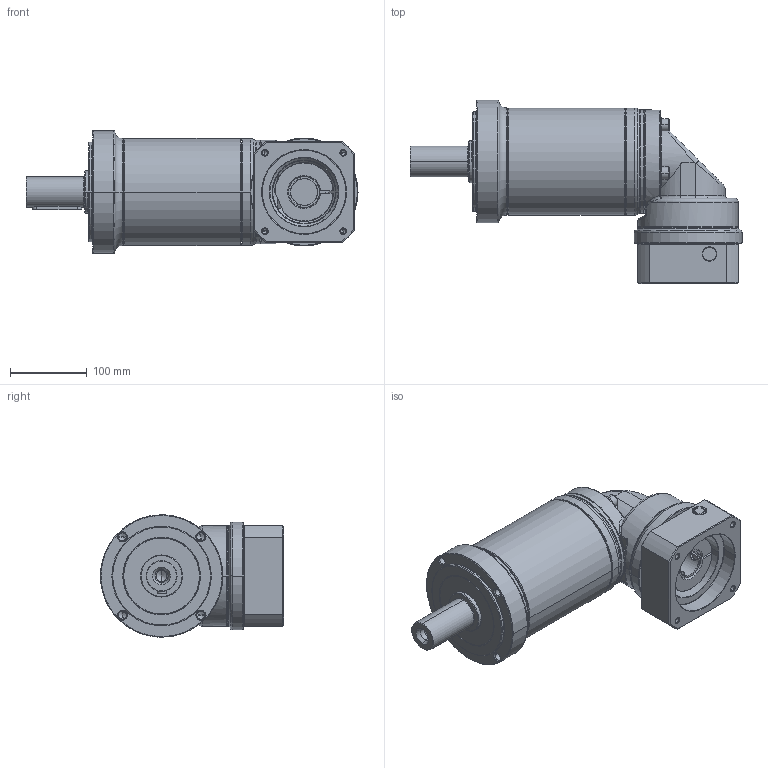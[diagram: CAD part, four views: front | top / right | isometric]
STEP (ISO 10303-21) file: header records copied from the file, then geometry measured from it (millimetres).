
FILE_DESCRIPTION((''),'2;1');
FILE_NAME('PG2R-160_3ST_35-P0411800101_ASM','2016-04-28T',('d01943'),(''),'PRO/ENGINEER BY PARAMETRIC TECHNOLOGY CORPORATION, 2008410','PRO/ENGINEER BY PARAMETRIC TECHNOLOGY CORPORATION, 2008410','');
FILE_SCHEMA(('CONFIG_CONTROL_DESIGN'));
Length unit declared in the file: millimetre
Products named in the file (12): P1325510001; P0273500001; P0350501103; P1349500001; P1017500001; P0713504001; P0503800010; P1350500401; P0411800101; P1702600001; 2111BA10040; PG2R-160_3ST_35-P0411800101_ASM
Assembly tree (14 placements, depth 2):
  PG2R-160_3ST_35-P0411800101_ASM
    P1325510001
    P0273500001
    P0350501103
    P1349500001
    P1017500001
    P0713504001
    P0503800010
    P1350500401
    P0411800101
    P1702600001
    2111BA10040  x4
Bounding box: 434 x 239.5 x 160 mm (x, y, z)
Volume: 3537558.3 mm3; surface area: 573137.2 mm2
Topology: 14 solids, 15 shells, 722 faces, 1585 edges, 918 vertices
Faces by surface type: cylinder 223, cone 200, plane 157, torus 110, bspline 32
Entity records: 23020 total; most frequent: CARTESIAN_POINT 9058, DIRECTION 3109, ORIENTED_EDGE 2694, EDGE_CURVE 1347, AXIS2_PLACEMENT_3D 1318, VERTEX_POINT 798, EDGE_LOOP 701, CIRCLE 701
